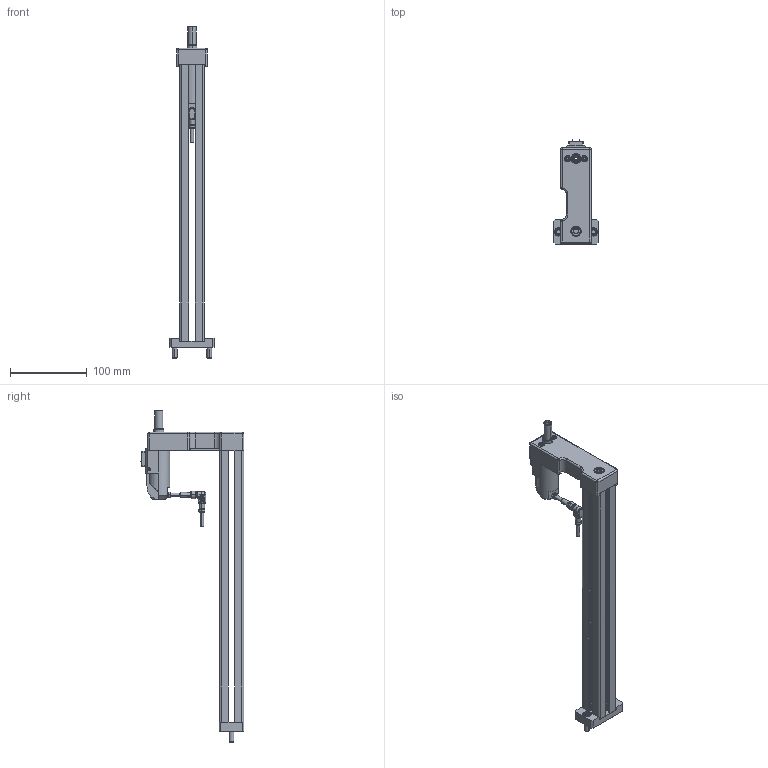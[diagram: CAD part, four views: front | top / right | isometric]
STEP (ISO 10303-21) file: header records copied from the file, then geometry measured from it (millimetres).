
FILE_DESCRIPTION (( 'STEP AP214' ), '1' );
FILE_NAME ('PPVM.STEP', '2026-02-05T15:14:24', ( '' ), ( '' ), 'SwSTEP 2.0', 'SolidWorks 2022', '' );
FILE_SCHEMA (( 'AUTOMOTIVE_DESIGN' ));
Length unit declared in the file: millimetre
Products named in the file (1): PPVM
Bounding box: 58 x 134.97 x 432 mm (x, y, z)
Surface area: 106942.5 mm2 (no closed solid volume)
Topology: 0 solids, 37 shells, 493 faces, 1356 edges, 866 vertices
Faces by surface type: plane 238, cylinder 144, cone 90, bspline 11, sphere 6, torus 4
Entity records: 26371 total; most frequent: CARTESIAN_POINT 8754, DIRECTION 2586, ORIENTED_EDGE 2279, EDGE_CURVE 1352, AXIS2_PLACEMENT_3D 935, VERTEX_POINT 866, VECTOR 716, LINE 716
